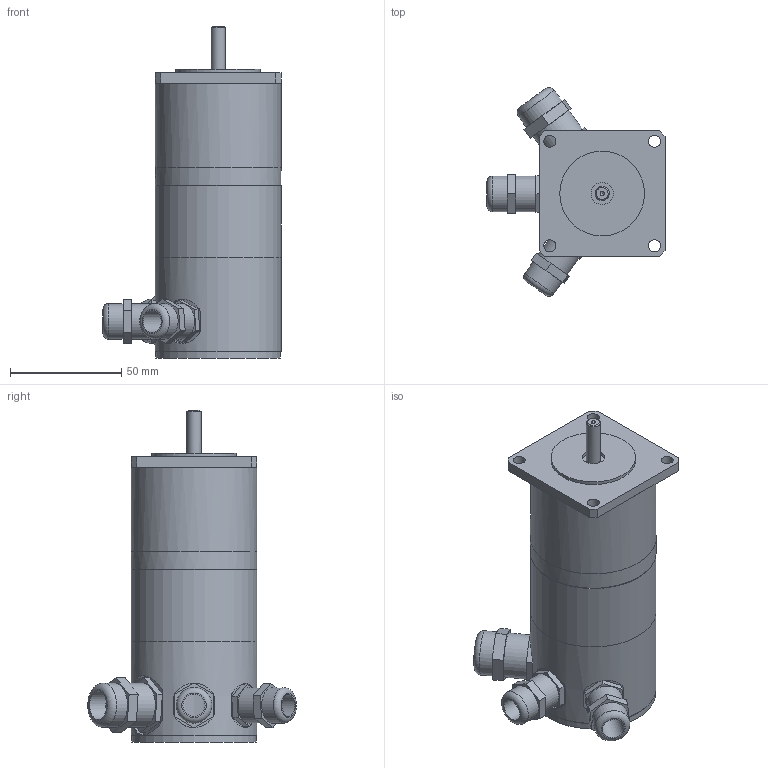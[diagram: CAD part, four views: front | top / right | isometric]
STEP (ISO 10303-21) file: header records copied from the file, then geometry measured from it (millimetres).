
FILE_DESCRIPTION((''),'2;1');
FILE_NAME('C:\Users\Reinhard\Documents\Inventor\Testschrittmotor\SM56\step files\SM 56.1-BE50-KV.stp','2020-02-24T21:02:53',('Reinhard'),(''),'Autodesk Inventor 2012','Autodesk Inventor 2012','');
FILE_SCHEMA(('CONFIG_CONTROL_DESIGN'));
Length unit declared in the file: millimetre
Products named in the file (1): SM 56.1-BE50-KV_Konturvereinfachung_1
Bounding box: 80 x 93.72 x 149.2 mm (x, y, z)
Volume: 98848.4 mm3; surface area: 65882.8 mm2
Topology: 2 solids, 3 shells, 134 faces, 296 edges, 196 vertices
Faces by surface type: plane 86, cylinder 42, torus 4, cone 2
Full cylindrical faces by diameter (mm): 2 x1, 5.4 x4, 6.35 x2, 10 x3, 12 x3, 13 x2, 15 x3, 16 x4, 18.376 x1, 20 x3, 38.1 x1, 48 x1, 51.5 x1, 53.5 x1, 54.5 x1, 56 x1, 56.5 x4
Entity records: 3658 total; most frequent: CARTESIAN_POINT 760, DIRECTION 586, ORIENTED_EDGE 492, EDGE_CURVE 246, EDGE_LOOP 222, AXIS2_PLACEMENT_3D 220, VERTEX_POINT 188, VECTOR 146
